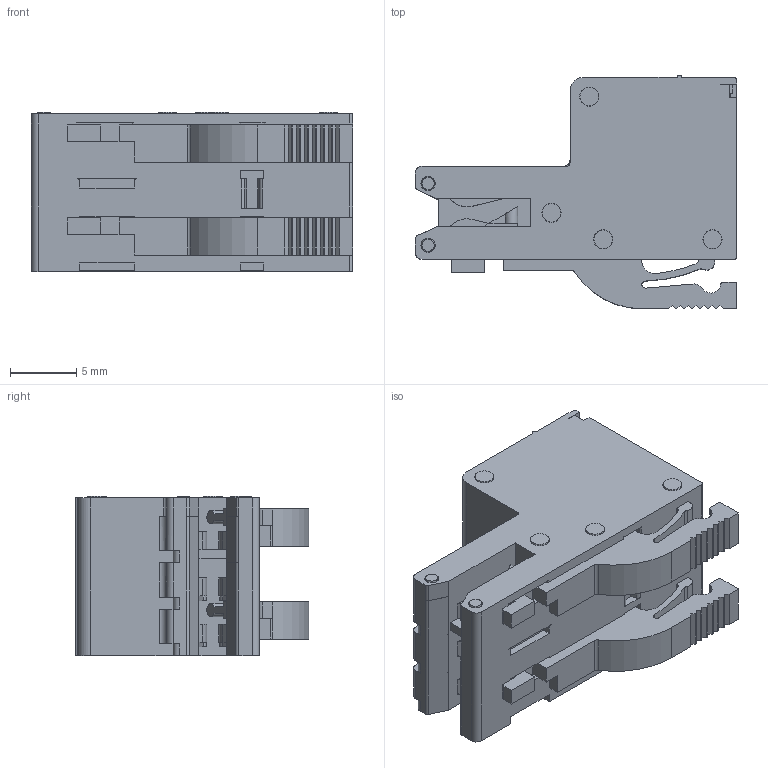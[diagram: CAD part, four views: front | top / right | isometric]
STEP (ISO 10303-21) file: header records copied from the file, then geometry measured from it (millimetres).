
FILE_DESCRIPTION((''),'2;1');
FILE_NAME('3PIN_ASM_ASM','2019-06-04T',('zhenbing.lai'),(''),'CREO PARAMETRIC BY PTC INC, 2016260','CREO PARAMETRIC BY PTC INC, 2016260','');
FILE_SCHEMA(('CONFIG_CONTROL_DESIGN'));
Length unit declared in the file: millimetre
Products named in the file (1): 3PIN_ASM_ASM
Bounding box: 24.2 x 17.61 x 12 mm (x, y, z)
Volume: 2921.9 mm3; surface area: 2106.2 mm2
Topology: 1 solids, 12 shells, 656 faces, 1808 edges, 1196 vertices
Faces by surface type: plane 443, cylinder 153, cone 52, torus 8
Entity records: 21192 total; most frequent: CARTESIAN_POINT 4255, ORIENTED_EDGE 3616, DIRECTION 3368, EDGE_CURVE 1808, VECTOR 1370, LINE 1370, VERTEX_POINT 1196, AXIS2_PLACEMENT_3D 999
